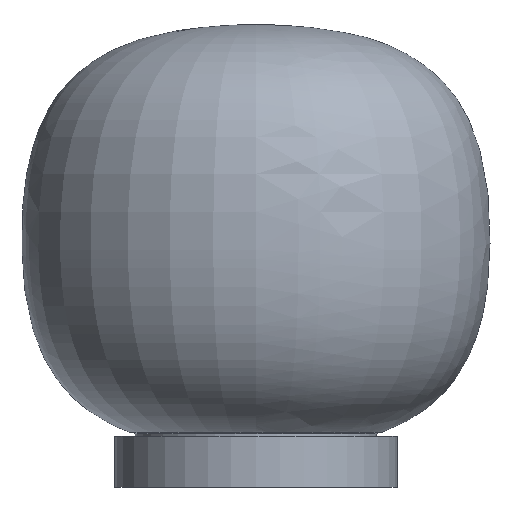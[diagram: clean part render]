
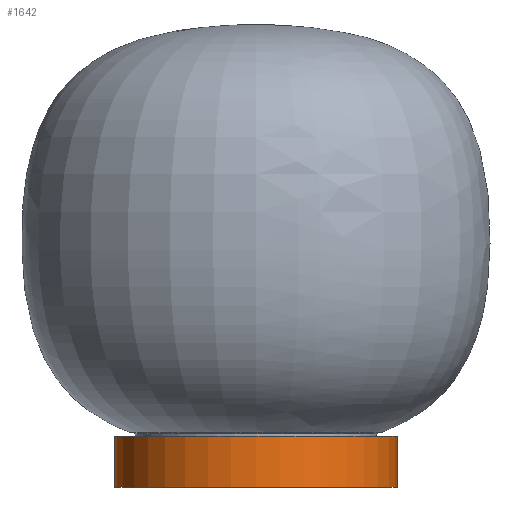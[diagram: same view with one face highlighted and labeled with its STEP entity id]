
A CAD part, front view. The second image highlights one B-rep face of the part: STEP entity #1642.
In plain terms, the highlighted cylindrical face has radius 65 mm (diameter 130 mm), a partial arc.
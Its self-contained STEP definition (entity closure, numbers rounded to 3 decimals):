
#172=FACE_OUTER_BOUND('',#284,.T.);
#284=EDGE_LOOP('',(#1444,#1445,#1446,#1447));
#444=LINE('',#2893,#544);
#445=LINE('',#2896,#545);
#544=VECTOR('',#2240,304.8);
#545=VECTOR('',#2243,304.8);
#630=CIRCLE('',#1818,65.);
#631=CIRCLE('',#1819,65.);
#778=VERTEX_POINT('',#2889);
#779=VERTEX_POINT('',#2890);
#780=VERTEX_POINT('',#2892);
#781=VERTEX_POINT('',#2894);
#1002=EDGE_CURVE('',#778,#779,#630,.T.);
#1003=EDGE_CURVE('',#780,#778,#444,.T.);
#1004=EDGE_CURVE('',#781,#780,#631,.T.);
#1005=EDGE_CURVE('',#779,#781,#445,.T.);
#1444=ORIENTED_EDGE('',*,*,#1002,.F.);
#1445=ORIENTED_EDGE('',*,*,#1003,.F.);
#1446=ORIENTED_EDGE('',*,*,#1004,.F.);
#1447=ORIENTED_EDGE('',*,*,#1005,.F.);
#1558=CYLINDRICAL_SURFACE('',#1817,65.);
#1642=ADVANCED_FACE('',(#172),#1558,.T.);
#1817=AXIS2_PLACEMENT_3D('',#2888,#2236,#2237);
#1818=AXIS2_PLACEMENT_3D('',#2891,#2238,#2239);
#1819=AXIS2_PLACEMENT_3D('',#2895,#2241,#2242);
#2236=DIRECTION('center_axis',(0.,0.,1.));
#2237=DIRECTION('ref_axis',(1.,0.,0.));
#2238=DIRECTION('center_axis',(0.,0.,1.));
#2239=DIRECTION('ref_axis',(1.,0.,0.));
#2240=DIRECTION('',(0.,0.,1.));
#2241=DIRECTION('center_axis',(0.,0.,-1.));
#2242=DIRECTION('ref_axis',(1.,0.,0.));
#2243=DIRECTION('',(0.,0.,-1.));
#2888=CARTESIAN_POINT('Origin',(0.,0.,0.));
#2889=CARTESIAN_POINT('',(65.,0.,23.5));
#2890=CARTESIAN_POINT('',(-65.,0.,23.5));
#2891=CARTESIAN_POINT('Origin',(0.,0.,23.5));
#2892=CARTESIAN_POINT('',(65.,0.,0.));
#2893=CARTESIAN_POINT('',(65.,0.,0.));
#2894=CARTESIAN_POINT('',(-65.,0.,0.));
#2895=CARTESIAN_POINT('Origin',(0.,0.,0.));
#2896=CARTESIAN_POINT('',(-65.,0.,23.5));
